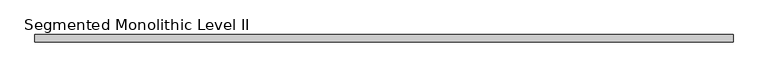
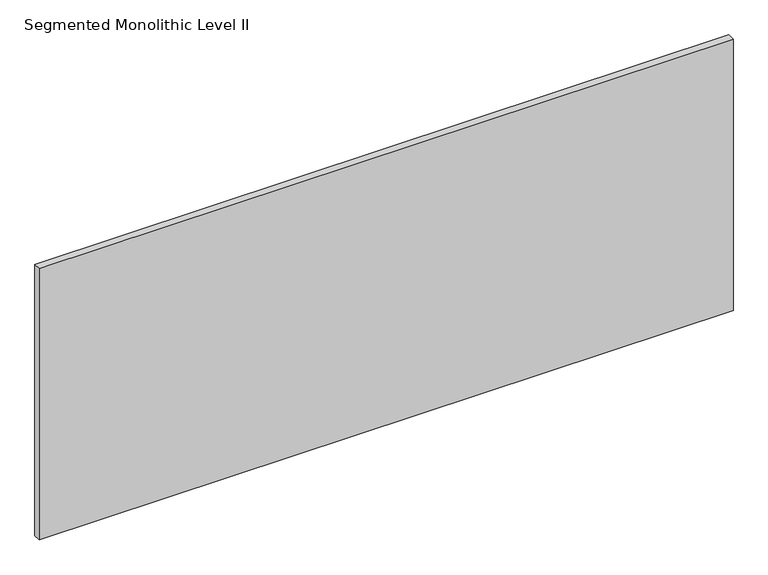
"""IFC4 building model written with IfcOpenShell, lengths in millimetres: proxy geometry, Panel-Fascia-Teknion-Altos-Standard : Segmented Monolithic Level II."""

from ifc_helpers import new_model, si_unit, frame, origin, place, context, project, spatial, polyline, outline, extrude, source, transform, mapped, element, save


def segmented_monolithic_level_ii_a618ab00(model_context):
    return source(origin(), model_context, "Body", "SweptSolid", [
        extrude(outline(polyline([(911.225, 9.525), (911.225, -9.525), (-911.225, -9.525), (-911.225, 9.525), (911.225, 9.525)])), frame((0.0, 0.0, 3.175), z_axis=(0.0, 0.0, 1.0), x_axis=(1.0, 0.0, 0.0)), (0.0, 0.0, 1.0), 753.618),
    ])


if __name__ == "__main__":
    model = new_model("IFC4")
    model_context = context("Model", 3, world=origin())
    ifc_project = project(units=[si_unit("LENGTHUNIT", "METRE", prefix="MILLI")], contexts=[model_context])
    site = spatial("IfcSite", under=ifc_project)
    building = spatial("IfcBuilding", under=site)
    placement = place(None, origin())
    segmented_monolithic_level_ii_shape = segmented_monolithic_level_ii_a618ab00(model_context)
    element("IfcBuildingElementProxy", 1, Name="Panel-Fascia-Teknion-Altos-Standard : Segmented Monolithic Level II", ObjectType="Panel-Fascia-Teknion-Altos-Standard : Segmented Monolithic Level II", at=placement, inside=building, context=model_context, shape_type="MappedRepresentation", body=[
        mapped(segmented_monolithic_level_ii_shape, transform((0.0, 0.0, 0.0), x_axis=(1.0, 0.0, 0.0), y_axis=(0.0, 1.0, 0.0), z_axis=(0.0, 0.0, 1.0))),
    ])
    save(model, "model.ifc")
